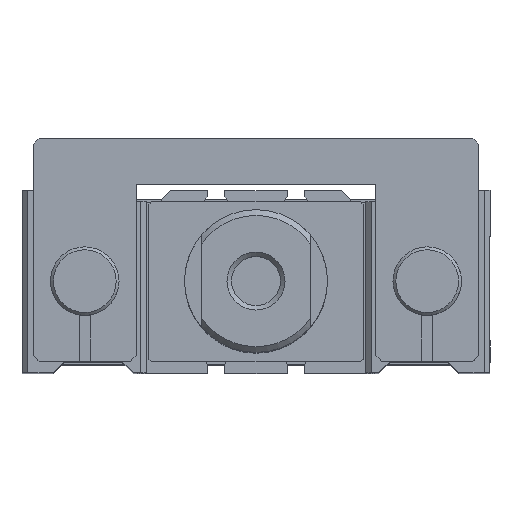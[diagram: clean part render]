
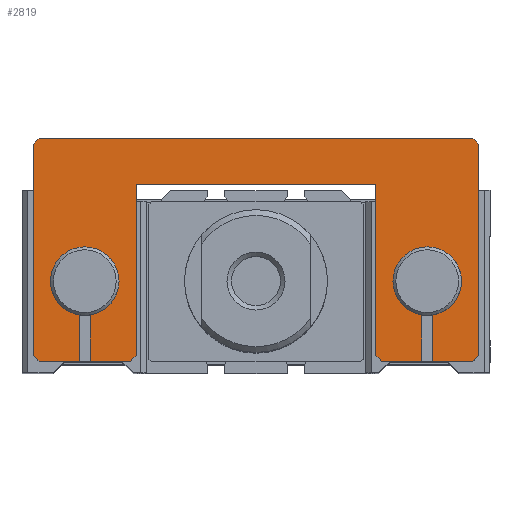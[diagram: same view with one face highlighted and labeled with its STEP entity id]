
A CAD part, top view. The second image highlights one B-rep face of the part: STEP entity #2819.
In plain terms, the highlighted planar face has unit normal (0, 0, 1).
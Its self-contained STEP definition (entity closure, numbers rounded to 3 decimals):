
#291=CARTESIAN_POINT('',(-29.0,-5.916,104.0));
#292=VERTEX_POINT('',#291);
#293=CARTESIAN_POINT('',(-31.0,-5.916,104.0));
#294=VERTEX_POINT('',#293);
#295=CARTESIAN_POINT('',(-30.0,0.0,104.0));
#296=DIRECTION('',(0.0,0.0,1.0));
#297=DIRECTION('',(0.0,-1.0,0.0));
#298=AXIS2_PLACEMENT_3D('',#295,#296,#297);
#299=CIRCLE('',#298,6.);
#300=EDGE_CURVE('',#292,#294,#299,.T.);
#378=CARTESIAN_POINT('',(31.,-5.916,104.0));
#379=VERTEX_POINT('',#378);
#380=CARTESIAN_POINT('',(29.,-5.916,104.0));
#381=VERTEX_POINT('',#380);
#382=CARTESIAN_POINT('',(30.0,0.0,104.0));
#383=DIRECTION('',(0.0,0.0,1.0));
#384=DIRECTION('',(0.0,-1.0,0.0));
#385=AXIS2_PLACEMENT_3D('',#382,#383,#384);
#386=CIRCLE('',#385,6.);
#387=EDGE_CURVE('',#379,#381,#386,.T.);
#2365=CARTESIAN_POINT('',(-39.0,24.,104.0));
#2366=VERTEX_POINT('',#2365);
#2367=CARTESIAN_POINT('',(-38.0,25.,104.0));
#2368=VERTEX_POINT('',#2367);
#2369=CARTESIAN_POINT('',(-39.0,24.,104.0));
#2370=DIRECTION('',(0.707,0.707,0.0));
#2371=VECTOR('',#2370,1.414);
#2372=LINE('',#2369,#2371);
#2373=EDGE_CURVE('',#2366,#2368,#2372,.T.);
#2429=CARTESIAN_POINT('',(-39.0,-13.,104.0));
#2430=VERTEX_POINT('',#2429);
#2437=CARTESIAN_POINT('',(-39.0,24.,104.0));
#2438=DIRECTION('',(0.0,-1.0,0.0));
#2439=VECTOR('',#2438,37.);
#2440=LINE('',#2437,#2439);
#2441=EDGE_CURVE('',#2366,#2430,#2440,.T.);
#2622=CARTESIAN_POINT('',(38.0,25.,104.0));
#2623=VERTEX_POINT('',#2622);
#2630=CARTESIAN_POINT('',(39.0,24.,104.0));
#2631=VERTEX_POINT('',#2630);
#2632=CARTESIAN_POINT('',(38.0,25.,104.0));
#2633=DIRECTION('',(0.707,-0.707,0.0));
#2634=VECTOR('',#2633,1.414);
#2635=LINE('',#2632,#2634);
#2636=EDGE_CURVE('',#2623,#2631,#2635,.T.);
#2653=CARTESIAN_POINT('',(39.0,-13.,104.0));
#2654=VERTEX_POINT('',#2653);
#2655=CARTESIAN_POINT('',(39.0,-13.,104.0));
#2656=DIRECTION('',(0.0,1.0,0.0));
#2657=VECTOR('',#2656,37.);
#2658=LINE('',#2655,#2657);
#2659=EDGE_CURVE('',#2654,#2631,#2658,.T.);
#2686=CARTESIAN_POINT('',(0.0,-14.,104.0));
#2687=DIRECTION('',(0.0,0.0,1.0));
#2688=DIRECTION('',(1.0,0.0,0.0));
#2689=AXIS2_PLACEMENT_3D('',#2686,#2687,#2688);
#2690=PLANE('',#2689);
#2691=ORIENTED_EDGE('',*,*,#2373,.F.);
#2692=ORIENTED_EDGE('',*,*,#2441,.T.);
#2693=CARTESIAN_POINT('',(-38.0,-14.,104.0));
#2694=VERTEX_POINT('',#2693);
#2695=CARTESIAN_POINT('',(-38.0,-14.,104.0));
#2696=DIRECTION('',(-0.707,0.707,0.0));
#2697=VECTOR('',#2696,1.414);
#2698=LINE('',#2695,#2697);
#2699=EDGE_CURVE('',#2694,#2430,#2698,.T.);
#2700=ORIENTED_EDGE('',*,*,#2699,.F.);
#2701=CARTESIAN_POINT('',(-31.0,-14.,104.0));
#2702=VERTEX_POINT('',#2701);
#2703=CARTESIAN_POINT('',(-38.0,-14.,104.0));
#2704=DIRECTION('',(1.0,0.0,0.0));
#2705=VECTOR('',#2704,7.0);
#2706=LINE('',#2703,#2705);
#2707=EDGE_CURVE('',#2694,#2702,#2706,.T.);
#2708=ORIENTED_EDGE('',*,*,#2707,.T.);
#2709=CARTESIAN_POINT('',(-31.0,-14.,104.0));
#2710=DIRECTION('',(0.0,1.0,0.0));
#2711=VECTOR('',#2710,8.084);
#2712=LINE('',#2709,#2711);
#2713=EDGE_CURVE('',#2702,#294,#2712,.T.);
#2714=ORIENTED_EDGE('',*,*,#2713,.T.);
#2715=ORIENTED_EDGE('',*,*,#300,.F.);
#2716=CARTESIAN_POINT('',(-29.0,-14.,104.0));
#2717=VERTEX_POINT('',#2716);
#2718=CARTESIAN_POINT('',(-29.0,-5.916,104.0));
#2719=DIRECTION('',(0.0,-1.0,0.0));
#2720=VECTOR('',#2719,8.084);
#2721=LINE('',#2718,#2720);
#2722=EDGE_CURVE('',#292,#2717,#2721,.T.);
#2723=ORIENTED_EDGE('',*,*,#2722,.T.);
#2724=CARTESIAN_POINT('',(-22.0,-14.,104.0));
#2725=VERTEX_POINT('',#2724);
#2726=CARTESIAN_POINT('',(-29.0,-14.,104.0));
#2727=DIRECTION('',(1.0,0.0,0.0));
#2728=VECTOR('',#2727,7.0);
#2729=LINE('',#2726,#2728);
#2730=EDGE_CURVE('',#2717,#2725,#2729,.T.);
#2731=ORIENTED_EDGE('',*,*,#2730,.T.);
#2732=CARTESIAN_POINT('',(-21.0,-13.,104.0));
#2733=VERTEX_POINT('',#2732);
#2734=CARTESIAN_POINT('',(-21.0,-13.,104.0));
#2735=DIRECTION('',(-0.707,-0.707,0.0));
#2736=VECTOR('',#2735,1.414);
#2737=LINE('',#2734,#2736);
#2738=EDGE_CURVE('',#2733,#2725,#2737,.T.);
#2739=ORIENTED_EDGE('',*,*,#2738,.F.);
#2740=CARTESIAN_POINT('',(-21.0,17.,104.0));
#2741=VERTEX_POINT('',#2740);
#2742=CARTESIAN_POINT('',(-21.0,-13.,104.0));
#2743=DIRECTION('',(0.0,1.0,0.0));
#2744=VECTOR('',#2743,30.);
#2745=LINE('',#2742,#2744);
#2746=EDGE_CURVE('',#2733,#2741,#2745,.T.);
#2747=ORIENTED_EDGE('',*,*,#2746,.T.);
#2748=CARTESIAN_POINT('',(21.0,17.,104.0));
#2749=VERTEX_POINT('',#2748);
#2750=CARTESIAN_POINT('',(-21.0,17.,104.0));
#2751=DIRECTION('',(1.0,0.0,0.0));
#2752=VECTOR('',#2751,42.0);
#2753=LINE('',#2750,#2752);
#2754=EDGE_CURVE('',#2741,#2749,#2753,.T.);
#2755=ORIENTED_EDGE('',*,*,#2754,.T.);
#2756=CARTESIAN_POINT('',(21.0,-13.,104.0));
#2757=VERTEX_POINT('',#2756);
#2758=CARTESIAN_POINT('',(21.0,17.,104.0));
#2759=DIRECTION('',(0.0,-1.0,0.0));
#2760=VECTOR('',#2759,30.);
#2761=LINE('',#2758,#2760);
#2762=EDGE_CURVE('',#2749,#2757,#2761,.T.);
#2763=ORIENTED_EDGE('',*,*,#2762,.T.);
#2764=CARTESIAN_POINT('',(22.0,-14.,104.0));
#2765=VERTEX_POINT('',#2764);
#2766=CARTESIAN_POINT('',(22.0,-14.,104.0));
#2767=DIRECTION('',(-0.707,0.707,0.0));
#2768=VECTOR('',#2767,1.414);
#2769=LINE('',#2766,#2768);
#2770=EDGE_CURVE('',#2765,#2757,#2769,.T.);
#2771=ORIENTED_EDGE('',*,*,#2770,.F.);
#2772=CARTESIAN_POINT('',(29.,-14.,104.0));
#2773=VERTEX_POINT('',#2772);
#2774=CARTESIAN_POINT('',(22.0,-14.,104.0));
#2775=DIRECTION('',(1.0,0.0,0.0));
#2776=VECTOR('',#2775,7.);
#2777=LINE('',#2774,#2776);
#2778=EDGE_CURVE('',#2765,#2773,#2777,.T.);
#2779=ORIENTED_EDGE('',*,*,#2778,.T.);
#2780=CARTESIAN_POINT('',(29.,-14.,104.0));
#2781=DIRECTION('',(0.0,1.0,0.0));
#2782=VECTOR('',#2781,8.084);
#2783=LINE('',#2780,#2782);
#2784=EDGE_CURVE('',#2773,#381,#2783,.T.);
#2785=ORIENTED_EDGE('',*,*,#2784,.T.);
#2786=ORIENTED_EDGE('',*,*,#387,.F.);
#2787=CARTESIAN_POINT('',(31.,-14.,104.0));
#2788=VERTEX_POINT('',#2787);
#2789=CARTESIAN_POINT('',(31.,-5.916,104.0));
#2790=DIRECTION('',(0.0,-1.0,0.0));
#2791=VECTOR('',#2790,8.084);
#2792=LINE('',#2789,#2791);
#2793=EDGE_CURVE('',#379,#2788,#2792,.T.);
#2794=ORIENTED_EDGE('',*,*,#2793,.T.);
#2795=CARTESIAN_POINT('',(38.0,-14.,104.0));
#2796=VERTEX_POINT('',#2795);
#2797=CARTESIAN_POINT('',(31.,-14.,104.0));
#2798=DIRECTION('',(1.0,0.0,0.0));
#2799=VECTOR('',#2798,7.);
#2800=LINE('',#2797,#2799);
#2801=EDGE_CURVE('',#2788,#2796,#2800,.T.);
#2802=ORIENTED_EDGE('',*,*,#2801,.T.);
#2803=CARTESIAN_POINT('',(39.0,-13.,104.0));
#2804=DIRECTION('',(-0.707,-0.707,0.0));
#2805=VECTOR('',#2804,1.414);
#2806=LINE('',#2803,#2805);
#2807=EDGE_CURVE('',#2654,#2796,#2806,.T.);
#2808=ORIENTED_EDGE('',*,*,#2807,.F.);
#2809=ORIENTED_EDGE('',*,*,#2659,.T.);
#2810=ORIENTED_EDGE('',*,*,#2636,.F.);
#2811=CARTESIAN_POINT('',(-38.0,25.,104.0));
#2812=DIRECTION('',(1.0,0.0,0.0));
#2813=VECTOR('',#2812,76.0);
#2814=LINE('',#2811,#2813);
#2815=EDGE_CURVE('',#2368,#2623,#2814,.T.);
#2816=ORIENTED_EDGE('',*,*,#2815,.F.);
#2817=EDGE_LOOP('',(#2691,#2692,#2700,#2708,#2714,#2715,#2723,#2731,#2739,#2747,#2755,#2763,#2771,#2779,#2785,#2786,#2794,#2802,#2808,#2809,#2810,#2816));
#2818=FACE_OUTER_BOUND('',#2817,.T.);
#2819=ADVANCED_FACE('',(#2818),#2690,.T.);
